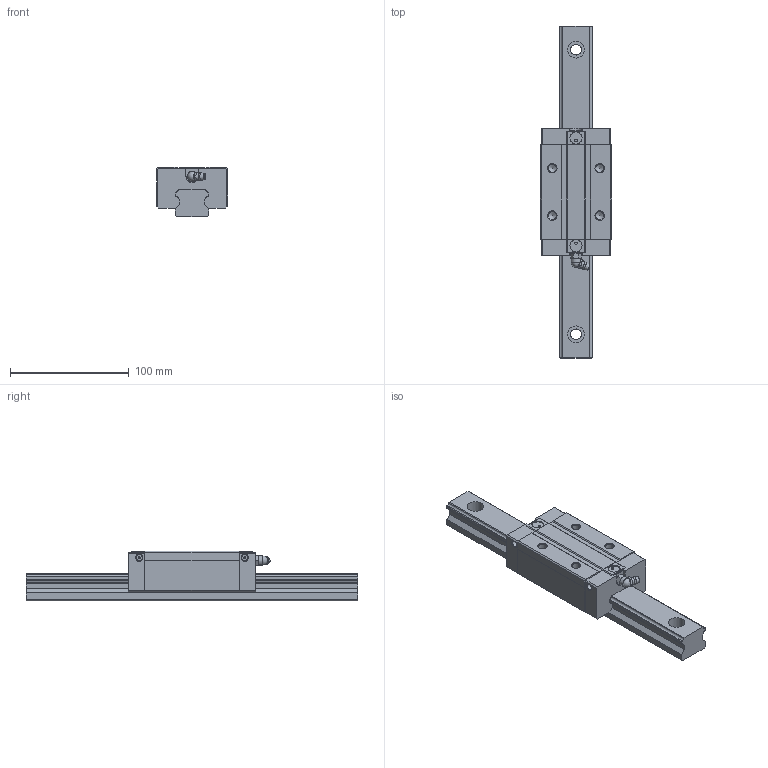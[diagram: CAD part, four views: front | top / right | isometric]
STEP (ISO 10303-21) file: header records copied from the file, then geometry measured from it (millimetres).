
FILE_DESCRIPTION(/* description */ (''),/* implementation_level */ '2;1');
FILE_NAME(/* name */ 'SME30-SB',/* time_stamp */ '2008-10-06T10:28:34+08:00',/* author */ (''),/* organization */ (''),/* preprocessor_version */ 'ST-DEVELOPER v11',/* originating_system */ 'UGS - NX 5.0',/* authorisation */ '');
FILE_SCHEMA (('AUTOMOTIVE_DESIGN { 1 0 10303 214 1 1 1 1 }'));
Length unit declared in the file: millimetre
Products named in the file (1): jillBD1Calm2
Bounding box: 60 x 280 x 42 mm (x, y, z)
Volume: 328162.1 mm3; surface area: 62501 mm2
Topology: 3 solids, 3 shells, 187 faces, 491 edges, 326 vertices
Faces by surface type: plane 117, cylinder 47, cone 13, torus 7, sphere 2, bspline 1
Full cylindrical faces by diameter (mm): 1.5 x4, 2 x2, 5.2 x4, 6.8 x4, 8 x1, 9 x4, 10.2 x2, 14 x4
Entity records: 5859 total; most frequent: CARTESIAN_POINT 1164, DIRECTION 890, ORIENTED_EDGE 870, EDGE_CURVE 435, VERTEX_POINT 316, AXIS2_PLACEMENT_3D 306, LINE 278, VECTOR 278
